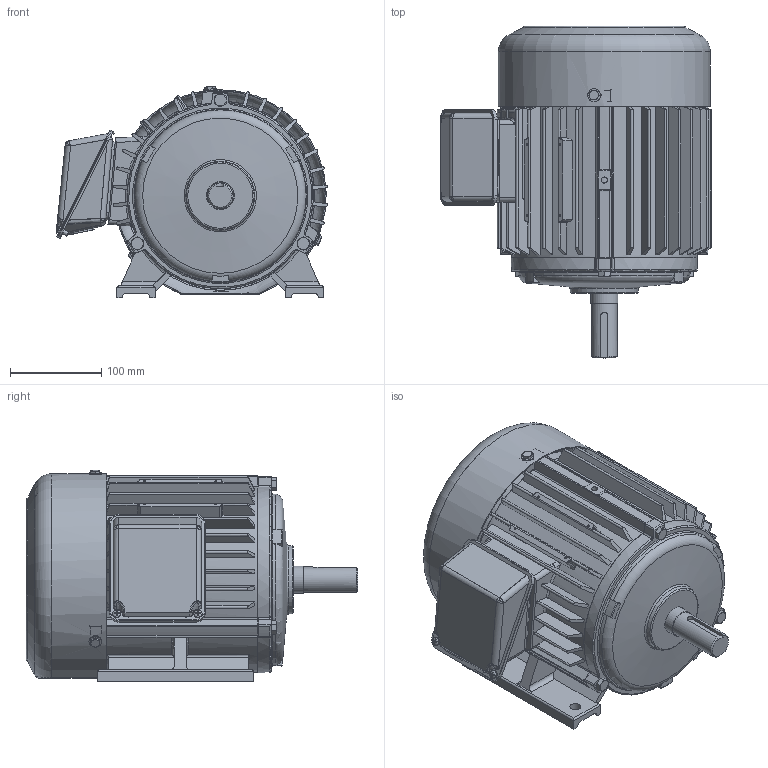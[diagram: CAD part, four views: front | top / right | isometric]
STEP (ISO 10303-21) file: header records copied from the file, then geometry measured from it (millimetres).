
FILE_DESCRIPTION(/* description */ ('Unknown'),/* implementation_level */ '2;1');
FILE_NAME(/* name */ '1-SMA-31981_외형도(194DIA)',/* time_stamp */ '2026-07-24T08:14:19+09:00',/* author */ ('Unknown'),/* organization */ ('Unknown'),/* preprocessor_version */ 'ST-DEVELOPER v16',/* originating_system */ 'DEX',/* authorisation */ $);
FILE_SCHEMA (('AUTOMOTIVE_DESIGN {1 0 10303 214 3 1 1}'));
Length unit declared in the file: millimetre
Products named in the file (18): 1-SMA-31981_寇屈档(194DI协油; 2-SMA-30877_FRAME(194DIA); 3-SMA-30871N_¾Õºê¶óÄÏ(194D^Å¾|·Ï(; 4-SMA-30872N_µÚºê¶óÄÏ(194D¤´¾|·Ï(; 5-SMA-30878_SHAFT(194DIA); 6-SMA-31243_FAN(194DIA); 7-SMA-30644_FAN COVER(194DIA); ﾀｰｰ｢ M6x1x10王8@; 幫陝獐お M8x1.25x; 6205ZZ; 2.2~3.7kW(3~5HP)_ﾅﾍｹﾌｳﾎ ｹﾚｽｺ(178, 194ｻｱ ; T-BOX 憶っ(178~194DIA; 8-SMA-33042_T-BOX(鼻)(194DIA); 9-SMA-33043_T-BOX(ж)(194DIA); T-BOX 歜衛 馨檜綰斜楠萄(178~傽(; 褊濠 菅斬 該葬 獐お M5x; 蹴辨 S2S22; 6206ZZ
Assembly tree (25 placements, depth 3):
  1-SMA-31981_寇屈档(194DI协油
    2-SMA-30877_FRAME(194DIA)
    3-SMA-30871N_¾Õºê¶óÄÏ(194D^Å¾|·Ï(
    4-SMA-30872N_µÚºê¶óÄÏ(194D¤´¾|·Ï(
    5-SMA-30878_SHAFT(194DIA)
    6-SMA-31243_FAN(194DIA)
    7-SMA-30644_FAN COVER(194DIA)
    ﾀｰｰ｢ M6x1x10王8@  x3
    幫陝獐お M8x1.25x  x6
    6205ZZ
    2.2~3.7kW(3~5HP)_ﾅﾍｹﾌｳﾎ ｹﾚｽｺ(178, 194ｻｱ 
      T-BOX 憶っ(178~194DIA
      8-SMA-33042_T-BOX(鼻)(194DIA)
      9-SMA-33043_T-BOX(ж)(194DIA)
      T-BOX 歜衛 馨檜綰斜楠萄(178~傽(
      褊濠 菅斬 該葬 獐お M5x  x2
    蹴辨 S2S22
    6206ZZ
Bounding box: 297.19 x 364 x 232.13 mm (x, y, z)
Volume: 2229483.2 mm3; surface area: 1005565.9 mm2
Topology: 46 solids, 46 shells, 1715 faces, 4347 edges, 2726 vertices
Faces by surface type: plane 554, cylinder 515, cone 307, torus 179, bspline 122, sphere 38
Full cylindrical faces by diameter (mm): 2 x2, 2.2 x4, 4.134 x2, 4.917 x2, 5 x2, 6 x8, 6.6 x4, 6.647 x13, 7 x2, 8 x12, 9 x2, 10 x6, 12 x4, 14 x3, 22 x1, 24.8 x1, 25 x2, 25.6 x1, 28 x3, 29.8 x1, 30 x2, 30.6 x1, 31.1 x1, 32.714 x2, 33.114 x2, 34 x1, 39.143 x2, 39.543 x2, 40 x4, 43.886 x2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
Entity records: 68078 total; most frequent: CARTESIAN_POINT 28196, ORIENTED_EDGE 7406, DIRECTION 7229, EDGE_CURVE 3703, AXIS2_PLACEMENT_3D 2943, VERTEX_POINT 2448, FACE_BOUND 1911, EDGE_LOOP 1885
